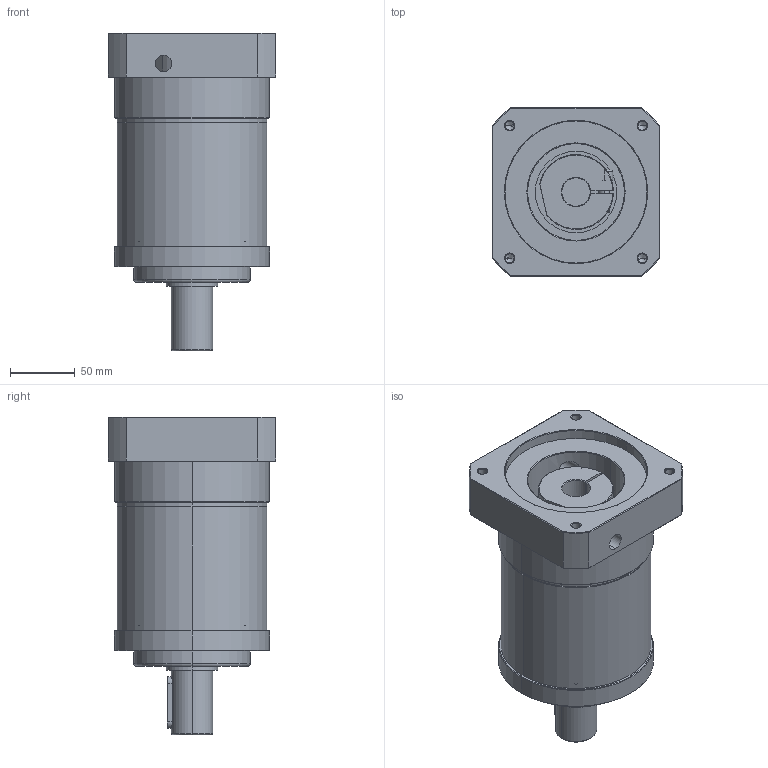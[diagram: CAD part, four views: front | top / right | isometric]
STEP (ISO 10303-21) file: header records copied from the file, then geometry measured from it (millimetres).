
FILE_DESCRIPTION (( 'STEP AP214' ), '1' );
FILE_NAME ('PBL120-L2-22×55-110-145M8 三维零件图.STEP', '2021-08-13T04:43:02', ( 'XJJ' ), ( '' ), 'SwSTEP 2.0', 'SolidWorks 2016', '' );
FILE_SCHEMA (( 'AUTOMOTIVE_DESIGN' ));
Length unit declared in the file: millimetre
Products named in the file (3): hexagon socket head cap screws gb_GB_FASTENER_SCREWS_HSHCS M8X25-N; PBL120-L2-22×60-110-145×M8 三维零件图; PBL120-L2-22×55-110-145M8 三维零件图
Assembly tree (2 placements, depth 2):
  PBL120-L2-22×55-110-145M8 三维零件图
    PBL120-L2-22×60-110-145×M8 三维零件图
    hexagon socket head cap screws gb_GB_FASTENER_SCREWS_HSHCS M8X25-N
Bounding box: 130 x 130 x 246 mm (x, y, z)
Volume: 2063267.2 mm3; surface area: 144125 mm2
Topology: 2 solids, 2 shells, 195 faces, 443 edges, 258 vertices
Faces by surface type: cylinder 70, cone 67, plane 52, torus 6
Entity records: 6500 total; most frequent: CARTESIAN_POINT 1319, DIRECTION 988, ORIENTED_EDGE 846, EDGE_CURVE 423, AXIS2_PLACEMENT_3D 399, VERTEX_POINT 258, EDGE_LOOP 229, CIRCLE 199
